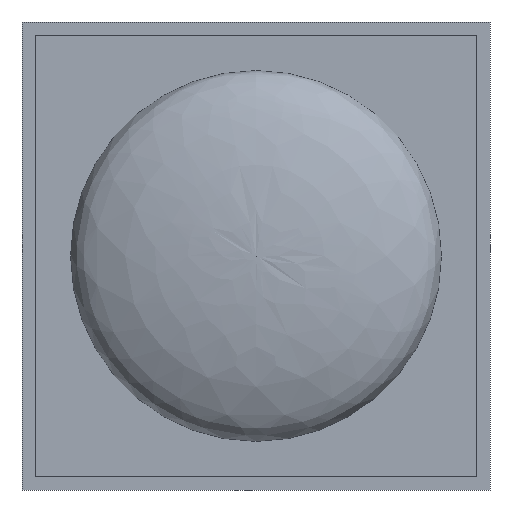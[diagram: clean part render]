
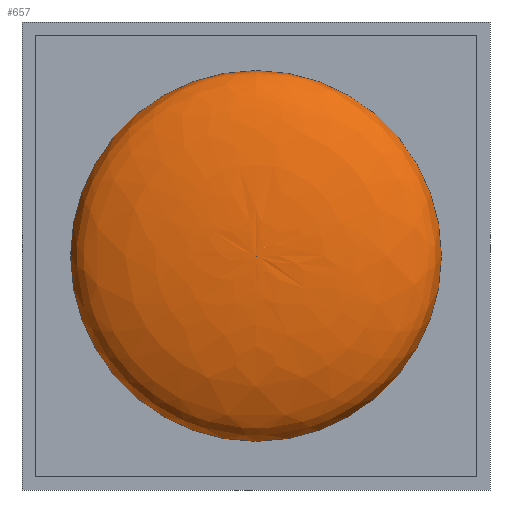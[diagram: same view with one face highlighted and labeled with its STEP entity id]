
A CAD part, front view. The second image highlights one B-rep face of the part: STEP entity #657.
In plain terms, the highlighted free-form (B-spline) face has degree [2, 2] with [3, 9] control points.
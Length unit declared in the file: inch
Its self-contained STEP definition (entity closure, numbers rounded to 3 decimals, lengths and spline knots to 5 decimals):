
#14=ELLIPSE('',#750,9.38702,3.00663);
#17=(
BOUNDED_SURFACE()
B_SPLINE_SURFACE(2,2,((#1491,#1492,#1493,#1494,#1495,#1496,#1497,#1498,
#1499),(#1500,#1501,#1502,#1503,#1504,#1505,#1506,#1507,#1508),(#1509,#1510,
#1511,#1512,#1513,#1514,#1515,#1516,#1517)),.UNSPECIFIED.,.F.,.T.,.F.)
B_SPLINE_SURFACE_WITH_KNOTS((3,3),(3,2,2,2,3),(-1.5708,-0.00221),
(0.,1.5708,3.14159,4.71239,6.28319),
 .UNSPECIFIED.)
GEOMETRIC_REPRESENTATION_ITEM()
RATIONAL_B_SPLINE_SURFACE(((1.,0.707,1.,0.707,1.,
0.707,1.,0.707,1.),(0.708,0.501,
0.708,0.501,0.708,0.501,
0.708,0.501,0.708),(1.,0.707,
1.,0.707,1.,0.707,1.,0.707,1.)))
REPRESENTATION_ITEM('')
SURFACE()
);
#182=FACE_OUTER_BOUND('',#224,.T.);
#224=EDGE_LOOP('',(#534,#535,#536));
#271=CIRCLE('',#751,9.387);
#310=VERTEX_POINT('',#1518);
#311=VERTEX_POINT('',#1519);
#388=EDGE_CURVE('',#310,#311,#14,.T.);
#389=EDGE_CURVE('',#310,#310,#271,.T.);
#534=ORIENTED_EDGE('',*,*,#388,.F.);
#535=ORIENTED_EDGE('',*,*,#389,.F.);
#536=ORIENTED_EDGE('',*,*,#388,.T.);
#657=ADVANCED_FACE('',(#182),#17,.T.);
#750=AXIS2_PLACEMENT_3D('',#1520,#917,#918);
#751=AXIS2_PLACEMENT_3D('',#1521,#919,#920);
#917=DIRECTION('center_axis',(1.,0.,0.));
#918=DIRECTION('ref_axis',(0.,0.,1.));
#919=DIRECTION('center_axis',(0.,1.,0.));
#920=DIRECTION('ref_axis',(-1.,0.,0.));
#1491=CARTESIAN_POINT('Ctrl Pts',(0.,0.,0.));
#1492=CARTESIAN_POINT('Ctrl Pts',(0.,0.,
0.));
#1493=CARTESIAN_POINT('Ctrl Pts',(0.,0.,
0.));
#1494=CARTESIAN_POINT('Ctrl Pts',(0.,0.,
0.));
#1495=CARTESIAN_POINT('Ctrl Pts',(0.,0.,0.));
#1496=CARTESIAN_POINT('Ctrl Pts',(0.,0.,
0.));
#1497=CARTESIAN_POINT('Ctrl Pts',(0.,0.,
0.));
#1498=CARTESIAN_POINT('Ctrl Pts',(0.,0.,
0.));
#1499=CARTESIAN_POINT('Ctrl Pts',(0.,0.,0.));
#1500=CARTESIAN_POINT('Ctrl Pts',(0.,0.,9.36635));
#1501=CARTESIAN_POINT('Ctrl Pts',(-9.36635,0.,
9.36635));
#1502=CARTESIAN_POINT('Ctrl Pts',(-9.36635,0.,
0.));
#1503=CARTESIAN_POINT('Ctrl Pts',(-9.36635,0.,
-9.36635));
#1504=CARTESIAN_POINT('Ctrl Pts',(0.,0.,-9.36635));
#1505=CARTESIAN_POINT('Ctrl Pts',(9.36635,0.,
-9.36635));
#1506=CARTESIAN_POINT('Ctrl Pts',(9.36635,0.,
0.));
#1507=CARTESIAN_POINT('Ctrl Pts',(9.36635,0.,
9.36635));
#1508=CARTESIAN_POINT('Ctrl Pts',(0.,0.,9.36635));
#1509=CARTESIAN_POINT('Ctrl Pts',(0.,3.,9.387));
#1510=CARTESIAN_POINT('Ctrl Pts',(-9.387,3.,9.387));
#1511=CARTESIAN_POINT('Ctrl Pts',(-9.387,3.,0.));
#1512=CARTESIAN_POINT('Ctrl Pts',(-9.387,3.,-9.387));
#1513=CARTESIAN_POINT('Ctrl Pts',(0.,3.,-9.387));
#1514=CARTESIAN_POINT('Ctrl Pts',(9.387,3.,-9.387));
#1515=CARTESIAN_POINT('Ctrl Pts',(9.387,3.,0.));
#1516=CARTESIAN_POINT('Ctrl Pts',(9.387,3.,9.387));
#1517=CARTESIAN_POINT('Ctrl Pts',(0.,3.,9.387));
#1518=CARTESIAN_POINT('',(0.,3.,9.387));
#1519=CARTESIAN_POINT('',(0.,0.,0.));
#1520=CARTESIAN_POINT('Origin',(0.,3.00663,0.));
#1521=CARTESIAN_POINT('Origin',(0.,3.,0.));
